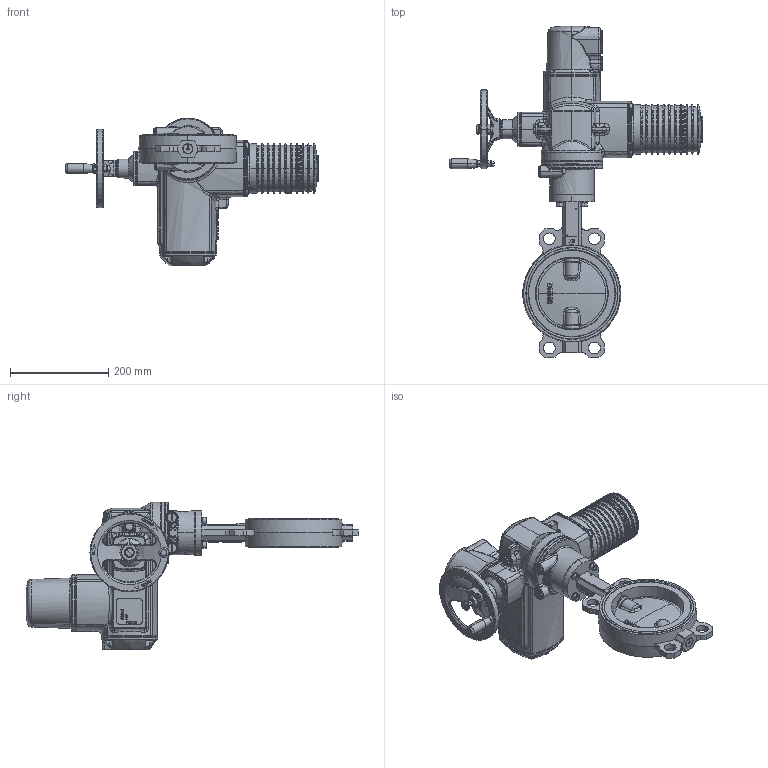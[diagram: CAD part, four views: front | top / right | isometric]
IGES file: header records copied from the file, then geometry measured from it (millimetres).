
Start section: SolidWorks IGES file using NURBS representation for surfaces
Global section: file name: H:\BE BIBLIOTHEQUE 3D\Projet_Biblio3D_2016\FSK\VPI\VPI-U24\VPI-U24 DN 150.Igs; native system: SolidWorks 2014; preprocessor: SolidWorks 2014; author: a.cartier; date: 160929.182048; units: millimetre
Bounding box: 514.2 x 674.5 x 300.3 mm (x, y, z)
Volume: 9115067.9 mm3; surface area: 741257.4 mm2
Topology: 37 solids, 37 shells, 3586 faces, 8719 edges, 5193 vertices
Faces by surface type: bspline 3586
